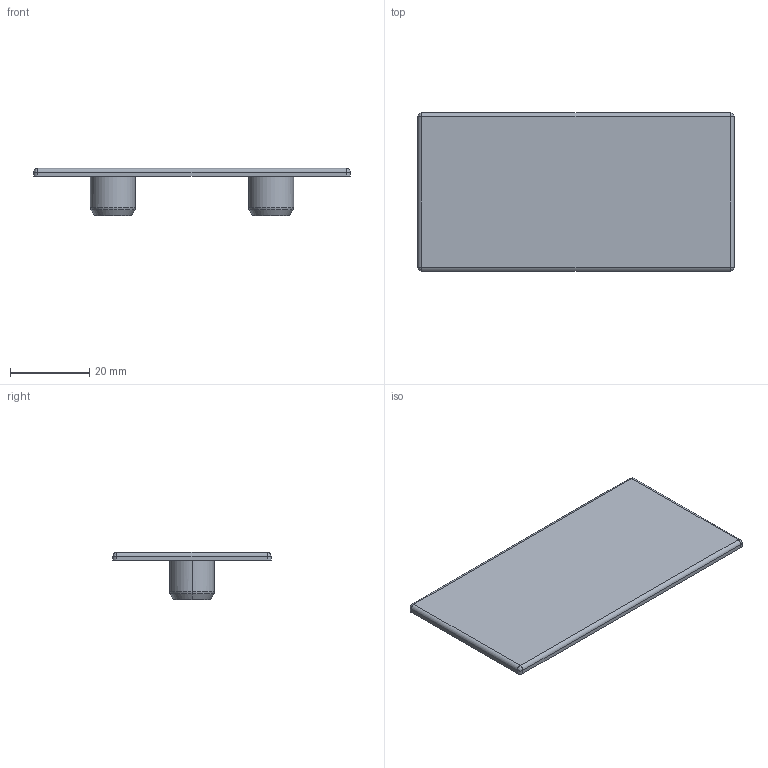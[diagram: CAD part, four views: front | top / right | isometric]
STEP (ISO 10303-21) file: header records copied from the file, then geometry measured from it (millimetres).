
FILE_DESCRIPTION (( 'STEP AP203' ), '1' );
FILE_NAME ('TCBE 40x80 G NLOGO Cover cap 40x80 grey No Logo (31-05-2021).STEP', '2021-05-31T15:00:41', ( '' ), ( '' ), 'SwSTEP 2.0', 'SolidWorks 2020', '' );
FILE_SCHEMA (( 'CONFIG_CONTROL_DESIGN' ));
Length unit declared in the file: millimetre
Products named in the file (1): TCBE 40x80 G NLOGO Cover cap 40x80 grey No Logo (31-05-2021)
Bounding box: 80 x 40 x 12 mm (x, y, z)
Volume: 5742.8 mm3; surface area: 8162.8 mm2
Topology: 1 solids, 1 shells, 75 faces, 186 edges, 114 vertices
Faces by surface type: plane 31, cylinder 28, bspline 12, cone 4
Entity records: 2619 total; most frequent: CARTESIAN_POINT 774, DIRECTION 384, ORIENTED_EDGE 364, EDGE_CURVE 182, AXIS2_PLACEMENT_3D 144, VERTEX_POINT 114, VECTOR 96, LINE 96
